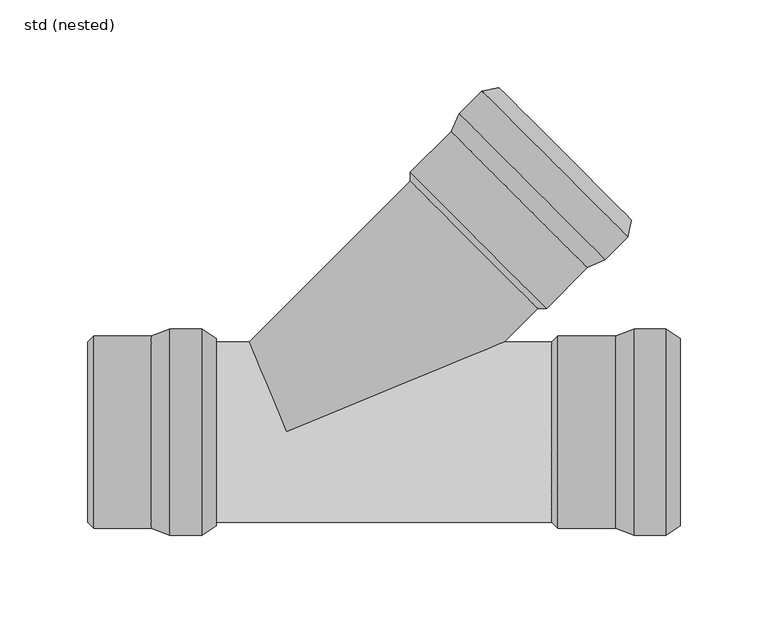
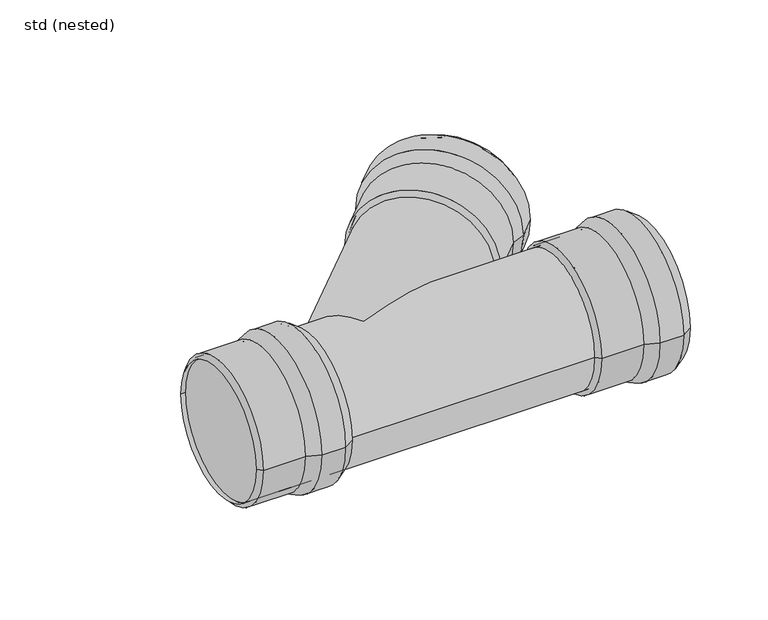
"""IFC4 building model written with IfcOpenShell, lengths in millimetres: pipe fitting geometry, ZZZ_do not use_PIF_ST_UN_GM-X single branch_ACO : std (nested)."""

from ifc_helpers import new_model, si_unit, frame, origin, place, context, project, spatial, polyline, circle_curve, ellipse_curve, source, transform, mapped, element, save
from ifc_brep_helpers import plane_surface, cylinder_surface, revolved_surface, advanced_brep


def std_nested_4232c6ad(model_context):
    return source(origin(), model_context, "Body", "AdvancedBrep", [
        advanced_brep(
        [(-66.5, 59.0, 0.0), (-66.5, -59.0, 0.0), (-48.3, -59.0, 0.0), (-48.3, 59.0, 0.0), (-77.0, 55.0, 0.0), (-77.0, -55.0, 0.0), (-40.0, -53.5, 0.0), (-40.0, 53.5, 0.0), (-110.0, 55.0, 0.0), (-110.0, -55.0, 0.0), (-113.5, 51.5, 0.0), (-113.5, -51.5, 0.0), (-110.0, 51.5, 0.0), (-110.0, -51.5, 0.0), (-76.6319487, 53.0, 0.0), (-76.6319487, -53.0, 0.0), (-110.0, -53.0, 0.0), (-110.0, 53.0, 0.0), (-66.1319487, 57.0, 0.0), (-66.1319487, -57.0, 0.0), (-48.9025117, 57.0, 0.0), (-48.9025117, -57.0, 0.0), (-41.1047607, 51.8328156, 0.0), (-41.1047607, -51.8328156, 0.0)],
        [
            (0, 1, circle_curve(frame((-66.5, 0.0, 0.0), z_axis=(1.0, 0.0, 0.0), x_axis=(0.0, -1.0, 0.0)), 59.0)),
            (1, 2),
            (2, 3, circle_curve(frame((-48.3, 0.0, 0.0), z_axis=(-1.0, 0.0, 0.0), x_axis=(0.0, -1.0, 0.0)), 59.0)),
            (3, 0),
            (1, 0, circle_curve(frame((-66.5, 0.0, 0.0), z_axis=(1.0, 0.0, 0.0), x_axis=(0.0, -1.0, 0.0)), 59.0)),
            (3, 2, circle_curve(frame((-48.3, 0.0, 0.0), z_axis=(-1.0, 0.0, 0.0), x_axis=(0.0, -1.0, 0.0)), 59.0)),
            (4, 5, circle_curve(frame((-77.0, 0.0, 0.0), z_axis=(1.0, 0.0, 0.0), x_axis=(0.0, -1.0, 0.0)), 55.0)),
            (5, 1),
            (0, 4),
            (5, 4, circle_curve(frame((-77.0, 0.0, 0.0), z_axis=(1.0, 0.0, 0.0), x_axis=(0.0, -1.0, 0.0)), 55.0)),
            (2, 6),
            (6, 7, circle_curve(frame((-40.0, 0.0, 0.0), z_axis=(-1.0, 0.0, 0.0), x_axis=(0.0, -1.0, 0.0)), 53.5)),
            (7, 3),
            (7, 6, circle_curve(frame((-40.0, 0.0, 0.0), z_axis=(-1.0, 0.0, 0.0), x_axis=(0.0, -1.0, 0.0)), 53.5)),
            (8, 9, circle_curve(frame((-110.0, 0.0, 0.0), z_axis=(1.0, 0.0, 0.0), x_axis=(0.0, -1.0, 0.0)), 55.0)),
            (9, 5),
            (4, 8),
            (9, 8, circle_curve(frame((-110.0, 0.0, 0.0), z_axis=(1.0, 0.0, 0.0), x_axis=(0.0, -1.0, 0.0)), 55.0)),
            (10, 11, circle_curve(frame((-113.5, 0.0, 0.0), z_axis=(1.0, 0.0, 0.0), x_axis=(0.0, -1.0, 0.0)), 51.5)),
            (11, 9),
            (8, 10),
            (11, 10, circle_curve(frame((-113.5, 0.0, 0.0), z_axis=(1.0, 0.0, 0.0), x_axis=(0.0, -1.0, 0.0)), 51.5)),
            (12, 13, circle_curve(frame((-110.0, 0.0, 0.0), z_axis=(1.0, 0.0, 0.0), x_axis=(0.0, -1.0, 0.0)), 51.5)),
            (13, 11),
            (10, 12),
            (13, 12, circle_curve(frame((-110.0, 0.0, 0.0), z_axis=(1.0, 0.0, 0.0), x_axis=(0.0, -1.0, 0.0)), 51.5)),
            (14, 15, circle_curve(frame((-76.6319487, 0.0, 0.0), z_axis=(1.0, 0.0, 0.0), x_axis=(0.0, -1.0, 0.0)), 53.0)),
            (15, 16),
            (16, 17, circle_curve(frame((-110.0, 0.0, 0.0), z_axis=(-1.0, 0.0, 0.0), x_axis=(0.0, -1.0, 0.0)), 53.0)),
            (17, 14),
            (15, 14, circle_curve(frame((-76.6319487, 0.0, 0.0), z_axis=(1.0, 0.0, 0.0), x_axis=(0.0, -1.0, 0.0)), 53.0)),
            (17, 16, circle_curve(frame((-110.0, 0.0, 0.0), z_axis=(-1.0, 0.0, 0.0), x_axis=(0.0, -1.0, 0.0)), 53.0)),
            (18, 19, circle_curve(frame((-66.1319487, 0.0, 0.0), z_axis=(1.0, 0.0, 0.0), x_axis=(0.0, -1.0, 0.0)), 57.0)),
            (19, 15),
            (14, 18),
            (19, 18, circle_curve(frame((-66.1319487, 0.0, 0.0), z_axis=(1.0, 0.0, 0.0), x_axis=(0.0, -1.0, 0.0)), 57.0)),
            (20, 21, circle_curve(frame((-48.9025117, 0.0, 0.0), z_axis=(1.0, 0.0, 0.0), x_axis=(0.0, -1.0, 0.0)), 57.0)),
            (21, 19),
            (18, 20),
            (21, 20, circle_curve(frame((-48.9025117, 0.0, 0.0), z_axis=(1.0, 0.0, 0.0), x_axis=(0.0, -1.0, 0.0)), 57.0)),
            (22, 23, circle_curve(frame((-41.1047607, 0.0, 0.0), z_axis=(1.0, 0.0, 0.0), x_axis=(0.0, -1.0, 0.0)), 51.8328156)),
            (23, 21),
            (20, 22),
            (23, 22, circle_curve(frame((-41.1047607, 0.0, 0.0), z_axis=(1.0, 0.0, 0.0), x_axis=(0.0, -1.0, 0.0)), 51.8328156)),
            (6, 23),
            (22, 7),
            (16, 13),
            (12, 17),
        ],
        [
            cylinder_surface(frame((-43.3555883, 0.0, 0.0), z_axis=(-1.0, 0.0, 0.0), x_axis=(0.0, -1.0, 0.0)), 59.0),
            revolved_surface(polyline([(-66.5, -59.0, 0.0), (-77.0, -55.0, 0.0)]), (-43.3555883, 0.0, 0.0), (-1.0, 0.0, 0.0)),
            revolved_surface(polyline([(-40.0, -53.5, 0.0), (-48.3, -59.0, 0.0)]), (-43.3555883, 0.0, 0.0), (-1.0, 0.0, 0.0)),
            cylinder_surface(frame((-43.3555883, 0.0, 0.0), z_axis=(-1.0, 0.0, 0.0), x_axis=(0.0, -1.0, 0.0)), 55.0),
            revolved_surface(polyline([(-110.0, -55.0, 0.0), (-113.5, -51.5, 0.0)]), (-43.3555883, 0.0, 0.0), (-1.0, 0.0, 0.0)),
            revolved_surface(polyline([(-113.5, -51.5, 0.0), (-110.0, -51.5, 0.0)]), (-43.3555883, 0.0, 0.0), (-1.0, 0.0, 0.0)),
            revolved_surface(polyline([(-110.0, -53.0, 0.0), (-76.6319487, -53.0, 0.0)]), (-43.3555883, 0.0, 0.0), (-1.0, 0.0, 0.0)),
            revolved_surface(polyline([(-76.6319487, -53.0, 0.0), (-66.1319487, -57.0, 0.0)]), (-43.3555883, 0.0, 0.0), (-1.0, 0.0, 0.0)),
            revolved_surface(polyline([(-66.1319487, -57.0, 0.0), (-48.9025117, -57.0, 0.0)]), (-43.3555883, 0.0, 0.0), (-1.0, 0.0, 0.0)),
            revolved_surface(polyline([(-48.9025117, -57.0, 0.0), (-41.1047607, -51.8328156, 0.0)]), (-43.3555883, 0.0, 0.0), (-1.0, 0.0, 0.0)),
            revolved_surface(polyline([(-41.1047607, -51.8328156, 0.0), (-40.0, -53.5, 0.0)]), (-43.3555883, 0.0, 0.0), (-1.0, 0.0, 0.0)),
            plane_surface(frame((-110.0, 0.0, 0.0), z_axis=(1.0, 0.0, 0.0), x_axis=(0.0, -1.0, 0.0))),
        ],
        [
            (0, [[1, 2, 3, 4]]),
            (0, [[5, -4, 6, -2]]),
            (1, [[7, 8, -1, 9]]),
            (1, [[10, -9, -5, -8]]),
            (2, [[-3, 11, 12, 13]]),
            (2, [[-6, -13, 14, -11]]),
            (3, [[15, 16, -7, 17]]),
            (3, [[18, -17, -10, -16]]),
            (4, [[19, 20, -15, 21]]),
            (4, [[22, -21, -18, -20]]),
            (5, [[23, 24, -19, 25]]),
            (5, [[26, -25, -22, -24]]),
            (6, [[27, 28, 29, 30]]),
            (6, [[31, -30, 32, -28]]),
            (7, [[33, 34, -27, 35]]),
            (7, [[36, -35, -31, -34]]),
            (8, [[37, 38, -33, 39]]),
            (8, [[40, -39, -36, -38]]),
            (9, [[41, 42, -37, 43]]),
            (9, [[44, -43, -40, -42]]),
            (10, [[-12, 45, -41, 46]]),
            (10, [[-14, -46, -44, -45]]),
            (11, [[-29, 47, -23, 48]]),
            (11, [[-32, -48, -26, -47]]),
        ],
    ),
        advanced_brep(
        [(198.5, -59.0, 0.0), (198.5, 59.0, 0.0), (216.7, 59.0, 0.0), (216.7, -59.0, 0.0), (188.0, -55.0, 0.0), (188.0, 55.0, 0.0), (225.0, 53.5, 0.0), (225.0, -53.5, 0.0), (155.0, -55.0, 0.0), (155.0, 55.0, 0.0), (151.5, -51.5, 0.0), (151.5, 51.5, 0.0), (155.0, -51.5, 0.0), (155.0, 51.5, 0.0), (188.3680513, -53.0, 0.0), (188.3680513, 53.0, 0.0), (155.0, 53.0, 0.0), (155.0, -53.0, 0.0), (198.8680513, -57.0, 0.0), (198.8680513, 57.0, 0.0), (216.0974883, -57.0, 0.0), (216.0974883, 57.0, 0.0), (223.8952393, -51.8328156, 0.0), (223.8952393, 51.8328156, 0.0)],
        [
            (0, 1, circle_curve(frame((198.5, 0.0, 0.0), z_axis=(1.0, 0.0, 0.0), x_axis=(0.0, 1.0, 0.0)), 59.0)),
            (1, 2),
            (2, 3, circle_curve(frame((216.7, 0.0, 0.0), z_axis=(-1.0, 0.0, 0.0), x_axis=(0.0, 1.0, 0.0)), 59.0)),
            (3, 0),
            (1, 0, circle_curve(frame((198.5, 0.0, 0.0), z_axis=(1.0, 0.0, 0.0), x_axis=(0.0, 1.0, 0.0)), 59.0)),
            (3, 2, circle_curve(frame((216.7, 0.0, 0.0), z_axis=(-1.0, 0.0, 0.0), x_axis=(0.0, 1.0, 0.0)), 59.0)),
            (4, 5, circle_curve(frame((188.0, 0.0, 0.0), z_axis=(1.0, 0.0, 0.0), x_axis=(0.0, 1.0, 0.0)), 55.0)),
            (5, 1),
            (0, 4),
            (5, 4, circle_curve(frame((188.0, 0.0, 0.0), z_axis=(1.0, 0.0, 0.0), x_axis=(0.0, 1.0, 0.0)), 55.0)),
            (2, 6),
            (6, 7, circle_curve(frame((225.0, 0.0, 0.0), z_axis=(-1.0, 0.0, 0.0), x_axis=(0.0, 1.0, 0.0)), 53.5)),
            (7, 3),
            (7, 6, circle_curve(frame((225.0, 0.0, 0.0), z_axis=(-1.0, 0.0, 0.0), x_axis=(0.0, 1.0, 0.0)), 53.5)),
            (8, 9, circle_curve(frame((155.0, 0.0, 0.0), z_axis=(1.0, 0.0, 0.0), x_axis=(0.0, 1.0, 0.0)), 55.0)),
            (9, 5),
            (4, 8),
            (9, 8, circle_curve(frame((155.0, 0.0, 0.0), z_axis=(1.0, 0.0, 0.0), x_axis=(0.0, 1.0, 0.0)), 55.0)),
            (10, 11, circle_curve(frame((151.5, 0.0, 0.0), z_axis=(1.0, 0.0, 0.0), x_axis=(0.0, 1.0, 0.0)), 51.5)),
            (11, 9),
            (8, 10),
            (11, 10, circle_curve(frame((151.5, 0.0, 0.0), z_axis=(1.0, 0.0, 0.0), x_axis=(0.0, 1.0, 0.0)), 51.5)),
            (12, 13, circle_curve(frame((155.0, 0.0, 0.0), z_axis=(1.0, 0.0, 0.0), x_axis=(0.0, 1.0, 0.0)), 51.5)),
            (13, 11),
            (10, 12),
            (13, 12, circle_curve(frame((155.0, 0.0, 0.0), z_axis=(1.0, 0.0, 0.0), x_axis=(0.0, 1.0, 0.0)), 51.5)),
            (14, 15, circle_curve(frame((188.3680513, 0.0, 0.0), z_axis=(1.0, 0.0, 0.0), x_axis=(0.0, 1.0, 0.0)), 53.0)),
            (15, 16),
            (16, 17, circle_curve(frame((155.0, 0.0, 0.0), z_axis=(-1.0, 0.0, 0.0), x_axis=(0.0, 1.0, 0.0)), 53.0)),
            (17, 14),
            (15, 14, circle_curve(frame((188.3680513, 0.0, 0.0), z_axis=(1.0, 0.0, 0.0), x_axis=(0.0, 1.0, 0.0)), 53.0)),
            (17, 16, circle_curve(frame((155.0, 0.0, 0.0), z_axis=(-1.0, 0.0, 0.0), x_axis=(0.0, 1.0, 0.0)), 53.0)),
            (18, 19, circle_curve(frame((198.8680513, 0.0, 0.0), z_axis=(1.0, 0.0, 0.0), x_axis=(0.0, 1.0, 0.0)), 57.0)),
            (19, 15),
            (14, 18),
            (19, 18, circle_curve(frame((198.8680513, 0.0, 0.0), z_axis=(1.0, 0.0, 0.0), x_axis=(0.0, 1.0, 0.0)), 57.0)),
            (20, 21, circle_curve(frame((216.0974883, 0.0, 0.0), z_axis=(1.0, 0.0, 0.0), x_axis=(0.0, 1.0, 0.0)), 57.0)),
            (21, 19),
            (18, 20),
            (21, 20, circle_curve(frame((216.0974883, 0.0, 0.0), z_axis=(1.0, 0.0, 0.0), x_axis=(0.0, 1.0, 0.0)), 57.0)),
            (22, 23, circle_curve(frame((223.8952393, 0.0, 0.0), z_axis=(1.0, 0.0, 0.0), x_axis=(0.0, 1.0, 0.0)), 51.8328156)),
            (23, 21),
            (20, 22),
            (23, 22, circle_curve(frame((223.8952393, 0.0, 0.0), z_axis=(1.0, 0.0, 0.0), x_axis=(0.0, 1.0, 0.0)), 51.8328156)),
            (6, 23),
            (22, 7),
            (16, 13),
            (12, 17),
        ],
        [
            cylinder_surface(frame((221.6444117, 0.0, 0.0), z_axis=(-1.0, 0.0, 0.0), x_axis=(0.0, 1.0, 0.0)), 59.0),
            revolved_surface(polyline([(198.5, 59.0, 0.0), (188.0, 55.0, 0.0)]), (221.6444117, 0.0, 0.0), (-1.0, 0.0, 0.0)),
            revolved_surface(polyline([(225.0, 53.5, 0.0), (216.7, 59.0, 0.0)]), (221.6444117, 0.0, 0.0), (-1.0, 0.0, 0.0)),
            cylinder_surface(frame((221.6444117, 0.0, 0.0), z_axis=(-1.0, 0.0, 0.0), x_axis=(0.0, 1.0, 0.0)), 55.0),
            revolved_surface(polyline([(155.0, 55.0, 0.0), (151.5, 51.5, 0.0)]), (221.6444117, 0.0, 0.0), (-1.0, 0.0, 0.0)),
            revolved_surface(polyline([(151.5, 51.5, 0.0), (155.0, 51.5, 0.0)]), (221.6444117, 0.0, 0.0), (-1.0, 0.0, 0.0)),
            revolved_surface(polyline([(155.0, 53.0, 0.0), (188.3680513, 53.0, 0.0)]), (221.6444117, 0.0, 0.0), (-1.0, 0.0, 0.0)),
            revolved_surface(polyline([(188.3680513, 53.0, 0.0), (198.8680513, 57.0, 0.0)]), (221.6444117, 0.0, 0.0), (-1.0, 0.0, 0.0)),
            revolved_surface(polyline([(198.8680513, 57.0, 0.0), (216.0974883, 57.0, 0.0)]), (221.6444117, 0.0, 0.0), (-1.0, 0.0, 0.0)),
            revolved_surface(polyline([(216.0974883, 57.0, 0.0), (223.8952393, 51.8328156, 0.0)]), (221.6444117, 0.0, 0.0), (-1.0, 0.0, 0.0)),
            revolved_surface(polyline([(223.8952393, 51.8328156, 0.0), (225.0, 53.5, 0.0)]), (221.6444117, 0.0, 0.0), (-1.0, 0.0, 0.0)),
            plane_surface(frame((155.0, 0.0, 0.0), z_axis=(1.0, 0.0, 0.0), x_axis=(0.0, 1.0, 0.0))),
        ],
        [
            (0, [[1, 2, 3, 4]]),
            (0, [[5, -4, 6, -2]]),
            (1, [[7, 8, -1, 9]]),
            (1, [[10, -9, -5, -8]]),
            (2, [[-3, 11, 12, 13]]),
            (2, [[-6, -13, 14, -11]]),
            (3, [[15, 16, -7, 17]]),
            (3, [[18, -17, -10, -16]]),
            (4, [[19, 20, -15, 21]]),
            (4, [[22, -21, -18, -20]]),
            (5, [[23, 24, -19, 25]]),
            (5, [[26, -25, -22, -24]]),
            (6, [[27, 28, 29, 30]]),
            (6, [[31, -30, 32, -28]]),
            (7, [[33, 34, -27, 35]]),
            (7, [[36, -35, -31, -34]]),
            (8, [[37, 38, -33, 39]]),
            (8, [[40, -39, -36, -38]]),
            (9, [[41, 42, -37, 43]]),
            (9, [[44, -43, -40, -42]]),
            (10, [[-12, 45, -41, 46]]),
            (10, [[-14, -46, -44, -45]]),
            (11, [[-29, 47, -23, 48]]),
            (11, [[-32, -48, -26, -47]]),
        ],
    ),
        advanced_brep(
        [(182.13629, 98.5374136, 0.0), (98.7453462, 182.023643, 0.0), (111.6220358, 194.885636, 0.0), (195.0129796, 111.3994066, 0.0), (171.8806189, 93.9470747, 0.0), (94.1432984, 171.7732207, 0.0), (121.3812383, 196.8599629, 0.0), (196.99845, 121.1563481, 0.0), (148.5327751, 70.6258786, 0.0), (70.7954546, 148.4520246, 0.0), (143.5830284, 70.6287048, 0.0), (70.7926284, 143.5022779, 0.0), (146.0593149, 73.102165, 0.0), (73.2689148, 145.9757381, 0.0), (170.7276132, 95.6221984, 0.0), (95.8171044, 170.6183028, 0.0), (72.2088605, 147.0370037, 0.0), (147.1193693, 72.0408994, 0.0), (180.9832842, 100.2125373, 0.0), (100.4191521, 180.8687251, 0.0), (193.1732904, 112.3886307, 0.0), (112.6091583, 193.0448184, 0.0), (195.0386162, 121.5551608, 0.0), (121.7778126, 194.899675, 0.0)],
        [
            (0, 1, circle_curve(frame((140.4408181, 140.2805283, 0.0), z_axis=(0.707510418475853, 0.7067029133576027, 0.0), x_axis=(-0.7067029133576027, 0.707510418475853, 0.0)), 59.0)),
            (1, 2),
            (2, 3, circle_curve(frame((153.3175077, 153.1425213, 0.0), z_axis=(-0.707510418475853, -0.7067029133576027, 0.0), x_axis=(-0.7067029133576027, 0.707510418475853, 0.0)), 59.0)),
            (3, 0),
            (1, 0, circle_curve(frame((140.4408181, 140.2805283, 0.0), z_axis=(0.707510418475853, 0.7067029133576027, 0.0), x_axis=(-0.7067029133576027, 0.707510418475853, 0.0)), 59.0)),
            (3, 2, circle_curve(frame((153.3175077, 153.1425213, 0.0), z_axis=(-0.707510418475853, -0.7067029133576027, 0.0), x_axis=(-0.7067029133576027, 0.707510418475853, 0.0)), 59.0)),
            (4, 5, circle_curve(frame((133.0119587, 132.8601477, 0.0), z_axis=(0.707510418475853, 0.7067029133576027, 0.0), x_axis=(-0.7067029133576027, 0.707510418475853, 0.0)), 55.0)),
            (5, 1),
            (0, 4),
            (5, 4, circle_curve(frame((133.0119587, 132.8601477, 0.0), z_axis=(0.707510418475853, 0.7067029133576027, 0.0), x_axis=(-0.7067029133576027, 0.707510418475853, 0.0)), 55.0)),
            (2, 6),
            (6, 7, circle_curve(frame((159.1898442, 159.0081555, 0.0), z_axis=(-0.707510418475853, -0.7067029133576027, 0.0), x_axis=(-0.7067029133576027, 0.707510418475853, 0.0)), 53.5)),
            (7, 3),
            (7, 6, circle_curve(frame((159.1898442, 159.0081555, 0.0), z_axis=(-0.707510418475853, -0.7067029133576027, 0.0), x_axis=(-0.7067029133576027, 0.707510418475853, 0.0)), 53.5)),
            (8, 9, circle_curve(frame((109.6641149, 109.5389516, 0.0), z_axis=(0.707510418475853, 0.7067029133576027, 0.0), x_axis=(-0.7067029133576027, 0.707510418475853, 0.0)), 55.0)),
            (9, 5),
            (4, 8),
            (9, 8, circle_curve(frame((109.6641149, 109.5389516, 0.0), z_axis=(0.707510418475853, 0.7067029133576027, 0.0), x_axis=(-0.7067029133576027, 0.707510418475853, 0.0)), 55.0)),
            (10, 11, circle_curve(frame((107.1878284, 107.0654914, 0.0), z_axis=(0.707510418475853, 0.7067029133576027, 0.0), x_axis=(-0.7067029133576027, 0.707510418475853, 0.0)), 51.5)),
            (11, 9),
            (8, 10),
            (11, 10, circle_curve(frame((107.1878284, 107.0654914, 0.0), z_axis=(0.707510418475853, 0.7067029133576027, 0.0), x_axis=(-0.7067029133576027, 0.707510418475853, 0.0)), 51.5)),
            (12, 13, circle_curve(frame((109.6641149, 109.5389516, 0.0), z_axis=(0.707510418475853, 0.7067029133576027, 0.0), x_axis=(-0.7067029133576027, 0.707510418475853, 0.0)), 51.5)),
            (13, 11),
            (10, 12),
            (13, 12, circle_curve(frame((109.6641149, 109.5389516, 0.0), z_axis=(0.707510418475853, 0.7067029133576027, 0.0), x_axis=(-0.7067029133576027, 0.707510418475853, 0.0)), 51.5)),
            (14, 15, circle_curve(frame((133.2723588, 133.1202506, 0.0), z_axis=(0.707510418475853, 0.7067029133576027, 0.0), x_axis=(-0.7067029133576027, 0.707510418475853, 0.0)), 53.0)),
            (15, 16),
            (16, 17, circle_curve(frame((109.6641149, 109.5389516, 0.0), z_axis=(-0.707510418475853, -0.7067029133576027, 0.0), x_axis=(-0.7067029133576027, 0.707510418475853, 0.0)), 53.0)),
            (17, 14),
            (15, 14, circle_curve(frame((133.2723588, 133.1202506, 0.0), z_axis=(0.707510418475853, 0.7067029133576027, 0.0), x_axis=(-0.7067029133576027, 0.707510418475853, 0.0)), 53.0)),
            (17, 16, circle_curve(frame((109.6641149, 109.5389516, 0.0), z_axis=(-0.707510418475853, -0.7067029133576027, 0.0), x_axis=(-0.7067029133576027, 0.707510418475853, 0.0)), 53.0)),
            (18, 19, circle_curve(frame((140.7012182, 140.5406312, 0.0), z_axis=(0.707510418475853, 0.7067029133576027, 0.0), x_axis=(-0.7067029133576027, 0.707510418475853, 0.0)), 57.0)),
            (19, 15),
            (14, 18),
            (19, 18, circle_curve(frame((140.7012182, 140.5406312, 0.0), z_axis=(0.707510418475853, 0.7067029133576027, 0.0), x_axis=(-0.7067029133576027, 0.707510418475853, 0.0)), 57.0)),
            (20, 21, circle_curve(frame((152.8912244, 152.7167246, 0.0), z_axis=(0.707510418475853, 0.7067029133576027, 0.0), x_axis=(-0.7067029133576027, 0.707510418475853, 0.0)), 57.0)),
            (21, 19),
            (18, 20),
            (21, 20, circle_curve(frame((152.8912244, 152.7167246, 0.0), z_axis=(0.707510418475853, 0.7067029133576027, 0.0), x_axis=(-0.7067029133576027, 0.707510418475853, 0.0)), 57.0)),
            (22, 23, circle_curve(frame((158.4082144, 158.2274179, 0.0), z_axis=(0.707510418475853, 0.7067029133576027, 0.0), x_axis=(-0.7067029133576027, 0.707510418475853, 0.0)), 51.8328156)),
            (23, 21),
            (20, 22),
            (23, 22, circle_curve(frame((158.4082144, 158.2274179, 0.0), z_axis=(0.707510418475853, 0.7067029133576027, 0.0), x_axis=(-0.7067029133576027, 0.707510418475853, 0.0)), 51.8328156)),
            (6, 23),
            (22, 7),
            (16, 13),
            (12, 17),
        ],
        [
            cylinder_surface(frame((156.8157305, 156.6367515, 0.0), z_axis=(-0.707510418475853, -0.7067029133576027, 0.0), x_axis=(-0.7067029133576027, 0.707510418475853, 0.0)), 59.0),
            revolved_surface(polyline([(98.7453462, 182.023643, 0.0), (94.1432984, 171.7732207, 0.0)]), (156.8157305, 156.6367515, 0.0), (-0.707510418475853, -0.7067029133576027, 0.0)),
            revolved_surface(polyline([(121.3812383, 196.8599629, 0.0), (111.6220358, 194.885636, 0.0)]), (156.8157305, 156.6367515, 0.0), (-0.707510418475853, -0.7067029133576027, 0.0)),
            cylinder_surface(frame((156.8157305, 156.6367515, 0.0), z_axis=(-0.707510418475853, -0.7067029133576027, 0.0), x_axis=(-0.7067029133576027, 0.707510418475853, 0.0)), 55.0),
            revolved_surface(polyline([(70.7954546, 148.4520246, 0.0), (70.7926284, 143.5022779, 0.0)]), (156.8157305, 156.6367515, 0.0), (-0.707510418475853, -0.7067029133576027, 0.0)),
            revolved_surface(polyline([(70.79262833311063, 143.50227789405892, 0.0), (73.26891486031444, 145.97573815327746, 0.0)]), (156.8157305, 156.6367515, 0.0), (-0.707510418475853, -0.7067029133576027, 0.0)),
            revolved_surface(polyline([(72.20886045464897, 147.03700374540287, 0.0), (95.81710439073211, 170.61830280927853, 0.0)]), (156.8157305, 156.6367515, 0.0), (-0.707510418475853, -0.7067029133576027, 0.0)),
            revolved_surface(polyline([(95.8171044, 170.6183028, 0.0), (100.4191521, 180.8687251, 0.0)]), (156.8157305, 156.6367515, 0.0), (-0.707510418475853, -0.7067029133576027, 0.0)),
            revolved_surface(polyline([(100.41915207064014, 180.86872501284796, 0.0), (112.60915835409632, 193.04481843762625, 0.0)]), (156.8157305, 156.6367515, 0.0), (-0.707510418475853, -0.7067029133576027, 0.0)),
            revolved_surface(polyline([(112.6091583, 193.0448184, 0.0), (121.7778126, 194.899675, 0.0)]), (156.8157305, 156.6367515, 0.0), (-0.707510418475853, -0.7067029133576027, 0.0)),
            revolved_surface(polyline([(121.7778126, 194.899675, 0.0), (121.3812383, 196.8599629, 0.0)]), (156.8157305, 156.6367515, 0.0), (-0.707510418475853, -0.7067029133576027, 0.0)),
            plane_surface(frame((109.6641149, 109.5389516, 0.0), z_axis=(0.707510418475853, 0.7067029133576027, 0.0), x_axis=(-0.7067029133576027, 0.707510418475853, 0.0))),
        ],
        [
            (0, [[1, 2, 3, 4]]),
            (0, [[5, -4, 6, -2]]),
            (1, [[7, 8, -1, 9]]),
            (1, [[10, -9, -5, -8]]),
            (2, [[-3, 11, 12, 13]]),
            (2, [[-6, -13, 14, -11]]),
            (3, [[15, 16, -7, 17]]),
            (3, [[18, -17, -10, -16]]),
            (4, [[19, 20, -15, 21]]),
            (4, [[22, -21, -18, -20]]),
            (5, [[23, 24, -19, 25]]),
            (5, [[26, -25, -22, -24]]),
            (6, [[27, 28, 29, 30]]),
            (6, [[31, -30, 32, -28]]),
            (7, [[33, 34, -27, 35]]),
            (7, [[36, -35, -31, -34]]),
            (8, [[37, 38, -33, 39]]),
            (8, [[40, -39, -36, -38]]),
            (9, [[41, 42, -37, 43]]),
            (9, [[44, -43, -40, -42]]),
            (10, [[-12, 45, -41, 46]]),
            (10, [[-14, -46, -44, -45]]),
            (11, [[-29, 47, -23, 48]]),
            (11, [[-32, -48, -26, -47]]),
        ],
    ),
        advanced_brep(
        [(155.0, -51.5, 0.0), (155.0, 51.5, 0.0), (-110.0, -51.5, 0.0), (-110.0, 51.5, 0.0), (-21.3147748, 51.5, 0.0), (0.0, 0.0, -51.5), (124.4324664, 51.5, 0.0), (0.0, 0.0, 51.5), (146.0593149, 73.102165, 0.0), (73.2689148, 145.9757381, 0.0)],
        [
            (0, 1, circle_curve(frame((155.0, 0.0, 0.0), z_axis=(1.0, 0.0, 0.0), x_axis=(0.0, 1.0, 0.0)), 51.5)),
            (1, 0, circle_curve(frame((155.0, 0.0, 0.0), z_axis=(1.0, 0.0, 0.0), x_axis=(0.0, 1.0, 0.0)), 51.5)),
            (2, 3, circle_curve(frame((-110.0, 0.0, 0.0), z_axis=(-1.0, 0.0, 0.0), x_axis=(0.0, 1.0, 0.0)), 51.5)),
            (3, 2, circle_curve(frame((-110.0, 0.0, 0.0), z_axis=(-1.0, 0.0, 0.0), x_axis=(0.0, 1.0, 0.0)), 51.5)),
            (0, 2),
            (3, 4),
            (4, 5, ellipse_curve(frame((0.0, 0.0, 0.0), z_axis=(-0.9239887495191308, -0.3824196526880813, 0.0), x_axis=(0.3824196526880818, -0.9239887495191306, 0.0)), 55.7366094, 51.5)),
            (5, 6, ellipse_curve(frame((0.0, 0.0, 0.0), z_axis=(0.3824196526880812, -0.923988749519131, 0.0), x_axis=(0.923988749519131, 0.3824196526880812, 0.0)), 134.6688112, 51.5)),
            (6, 1),
            (6, 7, ellipse_curve(frame((0.0, 0.0, 0.0), z_axis=(0.3824196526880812, -0.923988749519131, 0.0), x_axis=(0.923988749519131, 0.3824196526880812, 0.0)), 134.6688112, 51.5)),
            (7, 4, ellipse_curve(frame((0.0, 0.0, 0.0), z_axis=(-0.9239887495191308, -0.3824196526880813, 0.0), x_axis=(0.3824196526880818, -0.9239887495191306, 0.0)), 55.7366094, 51.5)),
            (8, 9, circle_curve(frame((109.6641149, 109.5389516, 0.0), z_axis=(0.7075104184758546, 0.7067029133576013, 0.0), x_axis=(-0.7067029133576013, 0.7075104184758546, 0.0)), 51.5)),
            (9, 8, circle_curve(frame((109.6641149, 109.5389516, 0.0), z_axis=(0.7075104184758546, 0.7067029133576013, 0.0), x_axis=(-0.7067029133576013, 0.7075104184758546, 0.0)), 51.5)),
            (9, 4),
            (6, 8),
        ],
        [
            plane_surface(frame((155.0, 51.5, 0.0), z_axis=(1.0, 0.0, 0.0), x_axis=(0.0, 0.0, 1.0))),
            plane_surface(frame((-110.0, 51.5, 0.0), z_axis=(-1.0, 0.0, 0.0), x_axis=(0.0, 0.0, -1.0))),
            cylinder_surface(frame((-110.0, 0.0, 0.0), z_axis=(1.0, 0.0, 0.0), x_axis=(0.0, 1.0, 0.0)), 51.5),
            plane_surface(frame((109.6641149, 109.5389516, 0.0), z_axis=(0.7075104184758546, 0.7067029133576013, 0.0), x_axis=(0.0, 0.0, 1.0))),
            cylinder_surface(frame((0.0, 0.0, 0.0), z_axis=(-0.7075104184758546, -0.7067029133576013, 0.0), x_axis=(-0.7067029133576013, 0.7075104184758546, 0.0)), 51.5),
        ],
        [
            (0, [[1, 2]]),
            (1, [[3, 4]]),
            (2, [[-1, 5, -4, 6, 7, 8, 9]]),
            (2, [[-2, -9, 10, 11, -6, -3, -5]]),
            (3, [[12, 13]]),
            (4, [[-13, 14, -11, -10, 15]]),
            (4, [[-12, -15, -8, -7, -14]]),
        ],
    ),
    ])


if __name__ == "__main__":
    model = new_model("IFC4")
    model_context = context("Model", 3, world=origin())
    ifc_project = project(units=[si_unit("LENGTHUNIT", "METRE", prefix="MILLI")], contexts=[model_context])
    site = spatial("IfcSite", under=ifc_project)
    building = spatial("IfcBuilding", under=site)
    placement = place(None, origin())
    std_nested_shape = std_nested_4232c6ad(model_context)
    element("IfcPipeFitting", 1, ObjectType="ZZZ_do not use_PIF_ST_UN_GM-X single branch_ACO : std (nested)", at=placement, inside=building, context=model_context, shape_type="MappedRepresentation", body=[
        mapped(std_nested_shape, transform((0.0, 0.0, 0.0), x_axis=(1.0, 0.0, 0.0), y_axis=(0.0, 1.0, 0.0), z_axis=(0.0, 0.0, 1.0))),
    ])
    save(model, "model.ifc")
